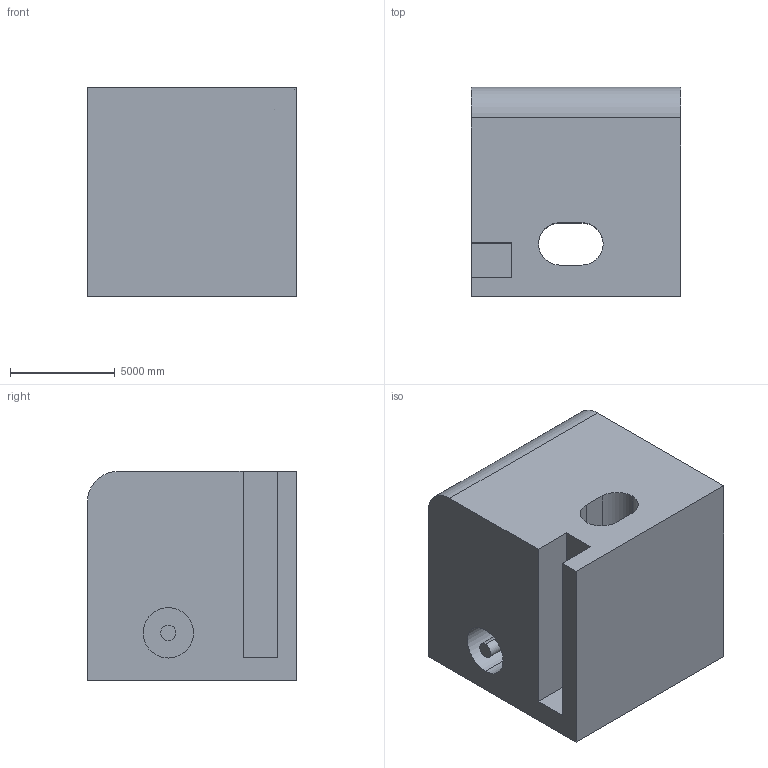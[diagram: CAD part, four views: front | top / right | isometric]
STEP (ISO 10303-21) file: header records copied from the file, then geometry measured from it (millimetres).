
FILE_DESCRIPTION (( 'STEP AP203' ), '1' );
FILE_NAME ('504.STEP', '2022-07-29T11:33:05', ( 'user' ), ( '' ), 'SwSTEP 2.0', 'SolidWorks 2021', '' );
FILE_SCHEMA (( 'CONFIG_CONTROL_DESIGN' ));
Length unit declared in the file: centimetre
Products named in the file (1): 504
Bounding box: 10000 x 10000 x 10000 mm (x, y, z)
Volume: 885686657641.8 mm3; surface area: 771637223.6 mm2
Topology: 1 solids, 1 shells, 31 faces, 75 edges, 50 vertices
Faces by surface type: plane 23, cylinder 8
Entity records: 986 total; most frequent: CARTESIAN_POINT 157, DIRECTION 155, ORIENTED_EDGE 150, EDGE_CURVE 75, VECTOR 59, LINE 59, VERTEX_POINT 50, AXIS2_PLACEMENT_3D 48
